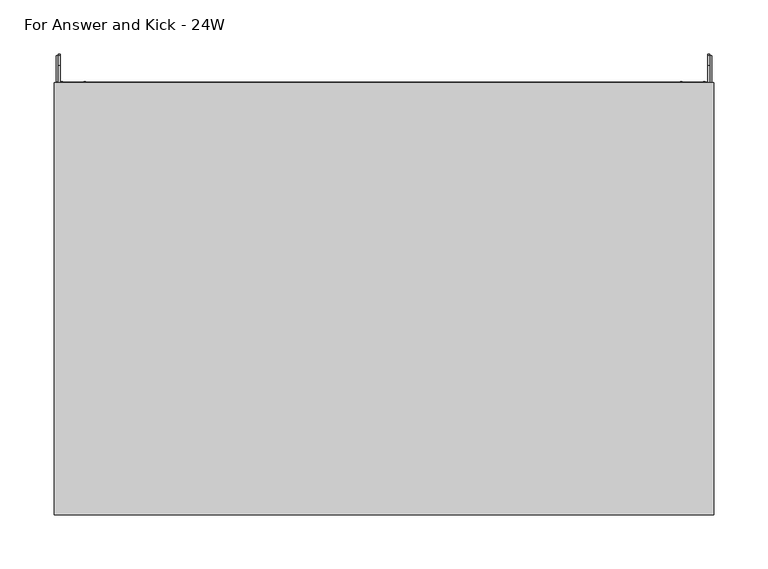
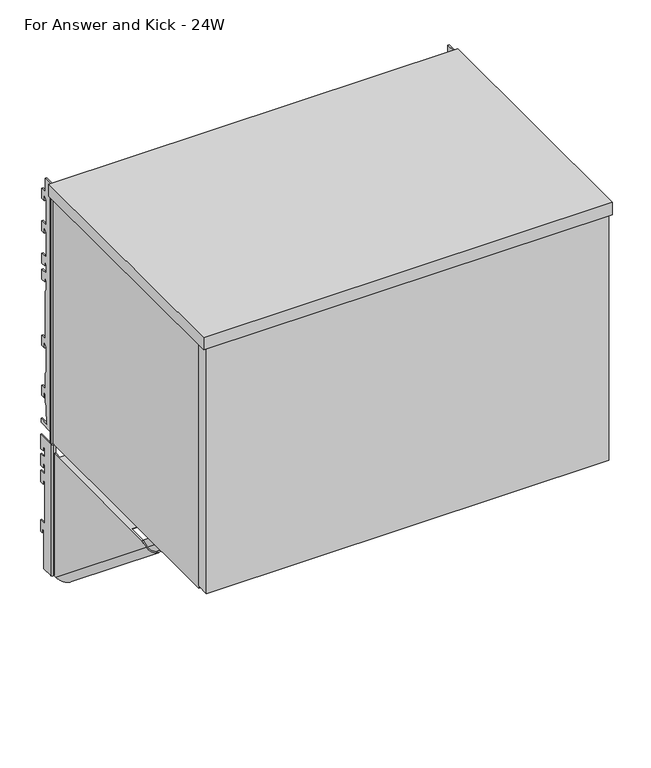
"""IFC4 building model written with IfcOpenShell, lengths in millimetres: furniture geometry, Steelcase - Universal Storage - In the Case Bin - Flat Front : For Answer and Kick - 24W."""

from ifc_helpers import new_model, si_unit, point, frame, frame_2d, origin, place, context, project, spatial, polyline, circle_curve, ellipse_curve, trimmed, segment, composite_curve, outline, extrude, faceted_brep, source, transform, mapped, element, save
from ifc_brep_helpers import plane_surface, cylinder_surface, revolved_surface, advanced_brep


def for_answer_and_kick_24w_fc827875(model_context):
    return source(origin(), model_context, "Body", "SolidModel", [
        advanced_brep(
        [(4.0894, 24.9864881, 1247.9655), (4.0894, 1.1327479, 1247.9655), (4.0894, 1.1203386, 1040.9809), (4.0894, 17.3410881, 1040.9809), (4.0894, 17.3410881, 1101.1280822), (4.0894, 21.4050888, 1101.1280822), (4.0894, 21.4050888, 1094.7781064), (4.0894, 24.9864881, 1094.7781064), (4.0894, 24.9864881, 1113.0407271), (4.0894, 14.7756879, 1113.0407271), (4.0894, 14.7756879, 1179.6141345), (4.0894, 18.8396885, 1179.6141345), (4.0894, 18.8396885, 1173.264086), (4.0894, 24.9864881, 1173.264086), (4.0894, 24.9864881, 1191.5267068), (4.0894, 14.7756879, 1191.5267068), (4.0894, 14.7756879, 1205.7761277), (4.0894, 18.8396885, 1205.7761277), (4.0894, 18.8396885, 1199.4260793), (4.0894, 24.9864881, 1199.4260793), (4.0894, 24.9864881, 1217.6887), (4.0894, 14.7756879, 1217.6887), (4.0894, 14.7756879, 1231.9381209), (4.0894, 18.8396885, 1231.9381209), (4.0894, 18.8396885, 1225.5880725), (4.0894, 24.9864881, 1225.5880725), (2.1844, 24.9864881, 1247.9655), (2.1844, 24.9864881, 1225.5880725), (2.1844, 18.8396885, 1225.5880725), (2.1844, 18.8396885, 1231.9381209), (2.1844, 14.7756879, 1231.9381209), (2.1844, 14.7756879, 1217.6887), (2.1844, 24.9864881, 1217.6887), (2.1844, 24.9864881, 1199.4260793), (2.1844, 18.8396885, 1199.4260793), (2.1844, 18.8396885, 1205.7761277), (2.1844, 14.7756879, 1205.7761277), (2.1844, 14.7756879, 1191.5267068), (2.1844, 24.9864881, 1191.5267068), (2.1844, 24.9864881, 1173.264086), (2.1844, 18.8396885, 1173.264086), (2.1844, 18.8396885, 1179.6141345), (2.1844, 14.7756879, 1179.6141345), (2.1844, 14.7756879, 1113.0407271), (2.1844, 24.9864881, 1113.0407271), (2.1844, 24.9864881, 1094.7781064), (2.1844, 21.4050888, 1094.7781064), (2.1844, 21.4050888, 1101.1280822), (2.1844, 17.3410881, 1101.1280822), (2.1844, 17.3410881, 1040.9809), (2.1844, -0.7757522, 1040.9809), (2.1844, -0.7757522, 1247.9655), (4.4891598, -3.080512, 1247.9655), (8.1026, -3.080512, 1247.9655), (8.1026, -1.7838863, 1247.9655), (7.4942256, -1.175512, 1247.9655), (6.3852506, -1.175512, 1247.9655), (6.3852506, -1.175512, 1040.9809), (7.4942256, -1.175512, 1040.9809), (8.1026, -1.7838863, 1040.9809), (8.1026, -3.080512, 1040.9809), (4.4891598, -3.080512, 1040.9809)],
        [
            (0, 1),
            (1, 2),
            (2, 3),
            (3, 4),
            (4, 5),
            (5, 6),
            (6, 7),
            (7, 8),
            (8, 9),
            (9, 10),
            (10, 11),
            (11, 12),
            (12, 13),
            (13, 14),
            (14, 15),
            (15, 16),
            (16, 17),
            (17, 18),
            (18, 19),
            (19, 20),
            (20, 21),
            (21, 22),
            (22, 23),
            (23, 24),
            (24, 25),
            (25, 0),
            (26, 27),
            (27, 28),
            (28, 29),
            (29, 30),
            (30, 31),
            (31, 32),
            (32, 33),
            (33, 34),
            (34, 35),
            (35, 36),
            (36, 37),
            (37, 38),
            (38, 39),
            (39, 40),
            (40, 41),
            (41, 42),
            (42, 43),
            (43, 44),
            (44, 45),
            (45, 46),
            (46, 47),
            (47, 48),
            (48, 49),
            (49, 50),
            (50, 51),
            (51, 26),
            (0, 26),
            (51, 52, circle_curve(frame((4.4891598, -0.7757522, 1247.9655), z_axis=(0.0, 0.0, 1.0), x_axis=(1.0, 0.0, 0.0)), 2.3047598)),
            (52, 53),
            (53, 54),
            (54, 55, circle_curve(frame((7.4942256, -1.7838863, 1247.9655), z_axis=(0.0, 0.0, 1.0), x_axis=(1.0, 0.0, 0.0)), 0.6083744)),
            (55, 56),
            (56, 1, circle_curve(frame((6.3852506, 1.1203386, 1247.9655), z_axis=(0.0, 0.0, -1.0), x_axis=(1.0, 0.0, 0.0)), 2.2958506)),
            (2, 57, circle_curve(frame((6.3852506, 1.1203386, 1040.9809), z_axis=(0.0, 0.0, 1.0), x_axis=(1.0, 0.0, 0.0)), 2.2958506)),
            (57, 58),
            (58, 59, circle_curve(frame((7.4942256, -1.7838863, 1040.9809), z_axis=(0.0, 0.0, -1.0), x_axis=(1.0, 0.0, 0.0)), 0.6083744)),
            (59, 60),
            (60, 61),
            (61, 50, circle_curve(frame((4.4891598, -0.7757522, 1040.9809), z_axis=(0.0, 0.0, -1.0), x_axis=(1.0, 0.0, 0.0)), 2.3047598)),
            (49, 3),
            (48, 4),
            (47, 5),
            (46, 6),
            (45, 7),
            (44, 8),
            (43, 9),
            (42, 10),
            (41, 11),
            (40, 12),
            (39, 13),
            (38, 14),
            (37, 15),
            (36, 16),
            (35, 17),
            (34, 18),
            (33, 19),
            (32, 20),
            (31, 21),
            (30, 22),
            (29, 23),
            (28, 24),
            (27, 25),
            (61, 52),
            (60, 53),
            (59, 54),
            (58, 55),
            (57, 56),
        ],
        [
            plane_surface(frame((4.0894, 1.241405, 1247.9655), z_axis=(1.0, 0.0, 0.0), x_axis=(0.0, -1.0, 0.0))),
            plane_surface(frame((2.1844, 1.241405, 1247.9655), z_axis=(-1.0, 0.0, 0.0), x_axis=(0.0, 1.0, 0.0))),
            plane_surface(frame((4.0894, 24.9864881, 1247.9655), z_axis=(0.0, 0.0, 1.0), x_axis=(-1.0, 0.0, 0.0))),
            plane_surface(frame((4.0894, 1.1327479, 1040.9809), z_axis=(0.0, 0.0, -1.0), x_axis=(-1.0, 0.0, 0.0))),
            plane_surface(frame((4.0894, 17.3410881, 1040.9809), z_axis=(0.0, 1.0, 0.0), x_axis=(-1.0, 0.0, 0.0))),
            plane_surface(frame((4.0894, 17.3410881, 1101.1280822), z_axis=(0.0, 0.0, -1.0), x_axis=(-1.0, 0.0, 0.0))),
            plane_surface(frame((4.0894, 21.4050888, 1101.1280822), z_axis=(0.0, -1.0, 0.0), x_axis=(-1.0, 0.0, 0.0))),
            plane_surface(frame((4.0894, 21.4050888, 1094.7781064), z_axis=(0.0, 0.0, -1.0), x_axis=(-1.0, 0.0, 0.0))),
            plane_surface(frame((4.0894, 24.9864881, 1094.7781064), z_axis=(0.0, 1.0, 0.0), x_axis=(-1.0, 0.0, 0.0))),
            plane_surface(frame((4.0894, 24.9864881, 1113.0407271), z_axis=(0.0, 0.0, 1.0), x_axis=(-1.0, 0.0, 0.0))),
            plane_surface(frame((4.0894, 14.7756879, 1113.0407271), z_axis=(0.0, 1.0, 0.0), x_axis=(-1.0, 0.0, 0.0))),
            plane_surface(frame((4.0894, 14.7756879, 1179.6141345), z_axis=(0.0, 0.0, -1.0), x_axis=(-1.0, 0.0, 0.0))),
            plane_surface(frame((4.0894, 18.8396885, 1179.6141345), z_axis=(0.0, -1.0, 0.0), x_axis=(-1.0, 0.0, 0.0))),
            plane_surface(frame((4.0894, 18.8396885, 1173.264086), z_axis=(0.0, 0.0, -1.0), x_axis=(-1.0, 0.0, 0.0))),
            plane_surface(frame((4.0894, 24.9864881, 1173.264086), z_axis=(0.0, 1.0, 0.0), x_axis=(-1.0, 0.0, 0.0))),
            plane_surface(frame((4.0894, 24.9864881, 1191.5267068), z_axis=(0.0, 0.0, 1.0), x_axis=(-1.0, 0.0, 0.0))),
            plane_surface(frame((4.0894, 14.7756879, 1191.5267068), z_axis=(0.0, 1.0, 0.0), x_axis=(-1.0, 0.0, 0.0))),
            plane_surface(frame((4.0894, 14.7756879, 1205.7761277), z_axis=(0.0, 0.0, -1.0), x_axis=(-1.0, 0.0, 0.0))),
            plane_surface(frame((4.0894, 18.8396885, 1205.7761277), z_axis=(0.0, -1.0, 0.0), x_axis=(-1.0, 0.0, 0.0))),
            plane_surface(frame((4.0894, 18.8396885, 1199.4260793), z_axis=(0.0, 0.0, -1.0), x_axis=(-1.0, 0.0, 0.0))),
            plane_surface(frame((4.0894, 24.9864881, 1199.4260793), z_axis=(0.0, 1.0, 0.0), x_axis=(-1.0, 0.0, 0.0))),
            plane_surface(frame((4.0894, 24.9864881, 1217.6887), z_axis=(0.0, 0.0, 1.0), x_axis=(-1.0, 0.0, 0.0))),
            plane_surface(frame((4.0894, 14.7756879, 1217.6887), z_axis=(0.0, 1.0, 0.0), x_axis=(-1.0, 0.0, 0.0))),
            plane_surface(frame((4.0894, 14.7756879, 1231.9381209), z_axis=(0.0, 0.0, -1.0), x_axis=(-1.0, 0.0, 0.0))),
            plane_surface(frame((4.0894, 18.8396885, 1231.9381209), z_axis=(0.0, -1.0, 0.0), x_axis=(-1.0, 0.0, 0.0))),
            plane_surface(frame((4.0894, 18.8396885, 1225.5880725), z_axis=(0.0, 0.0, -1.0), x_axis=(-1.0, 0.0, 0.0))),
            plane_surface(frame((4.0894, 24.9864881, 1225.5880725), z_axis=(0.0, 1.0, 0.0), x_axis=(-1.0, 0.0, 0.0))),
            cylinder_surface(frame((4.4891598, -0.7757522, 1040.9809), z_axis=(0.0, 0.0, 1.0), x_axis=(1.0, 0.0, 0.0)), 2.3047598),
            plane_surface(frame((4.4891598, -3.080512, 1247.9655), z_axis=(0.0, -1.0, 0.0), x_axis=(0.0, 0.0, -1.0))),
            plane_surface(frame((8.1026, -3.080512, 1247.9655), z_axis=(1.0, 0.0, 0.0), x_axis=(0.0, 0.0, -1.0))),
            cylinder_surface(frame((7.4942256, -1.7838863, 1040.9809), z_axis=(0.0, 0.0, 1.0), x_axis=(1.0, 0.0, 0.0)), 0.6083744),
            plane_surface(frame((7.4942256, -1.175512, 1247.9655), z_axis=(0.0, 1.0, 0.0), x_axis=(0.0, 0.0, -1.0))),
            revolved_surface(polyline([(8.6811012, 1.1203386, 1040.9809), (8.6811012, 1.1203386, 1247.9655)]), (6.3852506, 1.1203386, 1040.9809), (0.0, 0.0, -1.0)),
        ],
        [
            (0, [[1, 2, 3, 4, 5, 6, 7, 8, 9, 10, 11, 12, 13, 14, 15, 16, 17, 18, 19, 20, 21, 22, 23, 24, 25, 26]]),
            (1, [[27, 28, 29, 30, 31, 32, 33, 34, 35, 36, 37, 38, 39, 40, 41, 42, 43, 44, 45, 46, 47, 48, 49, 50, 51, 52]]),
            (2, [[-1, 53, -52, 54, 55, 56, 57, 58, 59]]),
            (3, [[-3, 60, 61, 62, 63, 64, 65, -50, 66]]),
            (4, [[-4, -66, -49, 67]]),
            (5, [[-5, -67, -48, 68]]),
            (6, [[-6, -68, -47, 69]]),
            (7, [[-7, -69, -46, 70]]),
            (8, [[-8, -70, -45, 71]]),
            (9, [[-9, -71, -44, 72]]),
            (10, [[-10, -72, -43, 73]]),
            (11, [[-11, -73, -42, 74]]),
            (12, [[-12, -74, -41, 75]]),
            (13, [[-13, -75, -40, 76]]),
            (14, [[-14, -76, -39, 77]]),
            (15, [[-15, -77, -38, 78]]),
            (16, [[-16, -78, -37, 79]]),
            (17, [[-17, -79, -36, 80]]),
            (18, [[-18, -80, -35, 81]]),
            (19, [[-19, -81, -34, 82]]),
            (20, [[-20, -82, -33, 83]]),
            (21, [[-21, -83, -32, 84]]),
            (22, [[-22, -84, -31, 85]]),
            (23, [[-23, -85, -30, 86]]),
            (24, [[-24, -86, -29, 87]]),
            (25, [[-25, -87, -28, 88]]),
            (26, [[-26, -88, -27, -53]]),
            (27, [[-54, -51, -65, 89]]),
            (28, [[-55, -89, -64, 90]]),
            (29, [[-56, -90, -63, 91]]),
            (30, [[-57, -91, -62, 92]]),
            (31, [[-58, -92, -61, 93]]),
            (32, [[-59, -93, -60, -2]]),
        ],
    ),
        advanced_brep(
        [(605.5106, 24.9864881, 1247.9655), (605.5106, 24.9864881, 1225.5880725), (605.5106, 18.8396885, 1225.5880725), (605.5106, 18.8396885, 1231.9381209), (605.5106, 14.7756879, 1231.9381209), (605.5106, 14.7756879, 1217.6887), (605.5106, 24.9864881, 1217.6887), (605.5106, 24.9864881, 1199.4260793), (605.5106, 18.8396885, 1199.4260793), (605.5106, 18.8396885, 1205.7761277), (605.5106, 14.7756879, 1205.7761277), (605.5106, 14.7756879, 1191.5267068), (605.5106, 24.9864881, 1191.5267068), (605.5106, 24.9864881, 1173.264086), (605.5106, 18.8396885, 1173.264086), (605.5106, 18.8396885, 1179.6141345), (605.5106, 14.7756879, 1179.6141345), (605.5106, 14.7756879, 1113.0407271), (605.5106, 24.9864881, 1113.0407271), (605.5106, 24.9864881, 1094.7781064), (605.5106, 21.4050888, 1094.7781064), (605.5106, 21.4050888, 1101.1280822), (605.5106, 17.3410881, 1101.1280822), (605.5106, 17.3410881, 1040.9809), (605.5106, 1.1327479, 1040.9809), (605.5106, 1.1203386, 1247.9655), (607.4156, -0.7757522, 1247.9655), (607.4156, -0.7757522, 1040.9809), (607.4156, 17.3410881, 1040.9809), (607.4156, 17.3410881, 1101.1280822), (607.4156, 21.4050888, 1101.1280822), (607.4156, 21.4050888, 1094.7781064), (607.4156, 24.9864881, 1094.7781064), (607.4156, 24.9864881, 1113.0407271), (607.4156, 14.7756879, 1113.0407271), (607.4156, 14.7756879, 1179.6141345), (607.4156, 18.8396885, 1179.6141345), (607.4156, 18.8396885, 1173.264086), (607.4156, 24.9864881, 1173.264086), (607.4156, 24.9864881, 1191.5267068), (607.4156, 14.7756879, 1191.5267068), (607.4156, 14.7756879, 1205.7761277), (607.4156, 18.8396885, 1205.7761277), (607.4156, 18.8396885, 1199.4260793), (607.4156, 24.9864881, 1199.4260793), (607.4156, 24.9864881, 1217.6887), (607.4156, 14.7756879, 1217.6887), (607.4156, 14.7756879, 1231.9381209), (607.4156, 18.8396885, 1231.9381209), (607.4156, 18.8396885, 1225.5880725), (607.4156, 24.9864881, 1225.5880725), (607.4156, 24.9864881, 1247.9655), (605.1108402, -3.080512, 1040.9809), (601.7006, -3.080512, 1040.9809), (601.7006, -1.7838863, 1040.9809), (602.3089744, -1.175512, 1040.9809), (603.2147494, -1.175512, 1040.9809), (603.2147494, -1.175512, 1247.9655), (602.3089744, -1.175512, 1247.9655), (601.7006, -1.7838863, 1247.9655), (601.7006, -3.080512, 1247.9655), (605.1108402, -3.080512, 1247.9655)],
        [
            (0, 1),
            (1, 2),
            (2, 3),
            (3, 4),
            (4, 5),
            (5, 6),
            (6, 7),
            (7, 8),
            (8, 9),
            (9, 10),
            (10, 11),
            (11, 12),
            (12, 13),
            (13, 14),
            (14, 15),
            (15, 16),
            (16, 17),
            (17, 18),
            (18, 19),
            (19, 20),
            (20, 21),
            (21, 22),
            (22, 23),
            (23, 24),
            (24, 25),
            (25, 0),
            (26, 27),
            (27, 28),
            (28, 29),
            (29, 30),
            (30, 31),
            (31, 32),
            (32, 33),
            (33, 34),
            (34, 35),
            (35, 36),
            (36, 37),
            (37, 38),
            (38, 39),
            (39, 40),
            (40, 41),
            (41, 42),
            (42, 43),
            (43, 44),
            (44, 45),
            (45, 46),
            (46, 47),
            (47, 48),
            (48, 49),
            (49, 50),
            (50, 51),
            (51, 26),
            (0, 51),
            (50, 1),
            (49, 2),
            (48, 3),
            (47, 4),
            (46, 5),
            (45, 6),
            (44, 7),
            (43, 8),
            (42, 9),
            (41, 10),
            (40, 11),
            (39, 12),
            (38, 13),
            (37, 14),
            (36, 15),
            (35, 16),
            (34, 17),
            (33, 18),
            (32, 19),
            (31, 20),
            (30, 21),
            (29, 22),
            (28, 23),
            (27, 52, circle_curve(frame((605.1108402, -0.7757522, 1040.9809), z_axis=(0.0, 0.0, -1.0), x_axis=(0.0, 1.0, 0.0)), 2.3047598)),
            (52, 53),
            (53, 54),
            (54, 55, circle_curve(frame((602.3089744, -1.7838863, 1040.9809), z_axis=(0.0, 0.0, -1.0), x_axis=(0.0, 1.0, 0.0)), 0.6083744)),
            (55, 56),
            (56, 24, circle_curve(frame((603.2147494, 1.1203386, 1040.9809), z_axis=(0.0, 0.0, 1.0), x_axis=(0.0, 1.0, 0.0)), 2.2958506)),
            (25, 57, circle_curve(frame((603.2147494, 1.1203386, 1247.9655), z_axis=(0.0, 0.0, -1.0), x_axis=(0.0, 1.0, 0.0)), 2.2958506)),
            (57, 58),
            (58, 59, circle_curve(frame((602.3089744, -1.7838863, 1247.9655), z_axis=(0.0, 0.0, 1.0), x_axis=(0.0, 1.0, 0.0)), 0.6083744)),
            (59, 60),
            (60, 61),
            (61, 26, circle_curve(frame((605.1108402, -0.7757522, 1247.9655), z_axis=(0.0, 0.0, 1.0), x_axis=(0.0, 1.0, 0.0)), 2.3047598)),
            (56, 57),
            (55, 58),
            (54, 59),
            (53, 60),
            (52, 61),
        ],
        [
            plane_surface(frame((605.5106, 24.9864881, 1247.9655), z_axis=(-1.0, 0.0, 0.0), x_axis=(0.0, 0.0, -1.0))),
            plane_surface(frame((607.4156, 24.9864881, 1247.9655), z_axis=(1.0, 0.0, 0.0), x_axis=(0.0, 0.0, 1.0))),
            plane_surface(frame((605.5106, 24.9864881, 1247.9655), z_axis=(0.0, 1.0, 0.0), x_axis=(1.0, 0.0, 0.0))),
            plane_surface(frame((605.5106, 24.9864881, 1225.5880725), z_axis=(0.0, 0.0, -1.0), x_axis=(1.0, 0.0, 0.0))),
            plane_surface(frame((605.5106, 18.8396885, 1225.5880725), z_axis=(0.0, -1.0, 0.0), x_axis=(1.0, 0.0, 0.0))),
            plane_surface(frame((605.5106, 18.8396885, 1231.9381209), z_axis=(0.0, 0.0, -1.0), x_axis=(1.0, 0.0, 0.0))),
            plane_surface(frame((605.5106, 14.7756879, 1231.9381209), z_axis=(0.0, 1.0, 0.0), x_axis=(1.0, 0.0, 0.0))),
            plane_surface(frame((605.5106, 14.7756879, 1217.6887), z_axis=(0.0, 0.0, 1.0), x_axis=(1.0, 0.0, 0.0))),
            plane_surface(frame((605.5106, 24.9864881, 1217.6887), z_axis=(0.0, 1.0, 0.0), x_axis=(1.0, 0.0, 0.0))),
            plane_surface(frame((605.5106, 24.9864881, 1199.4260793), z_axis=(0.0, 0.0, -1.0), x_axis=(1.0, 0.0, 0.0))),
            plane_surface(frame((605.5106, 18.8396885, 1199.4260793), z_axis=(0.0, -1.0, 0.0), x_axis=(1.0, 0.0, 0.0))),
            plane_surface(frame((605.5106, 18.8396885, 1205.7761277), z_axis=(0.0, 0.0, -1.0), x_axis=(1.0, 0.0, 0.0))),
            plane_surface(frame((605.5106, 14.7756879, 1205.7761277), z_axis=(0.0, 1.0, 0.0), x_axis=(1.0, 0.0, 0.0))),
            plane_surface(frame((605.5106, 14.7756879, 1191.5267068), z_axis=(0.0, 0.0, 1.0), x_axis=(1.0, 0.0, 0.0))),
            plane_surface(frame((605.5106, 24.9864881, 1191.5267068), z_axis=(0.0, 1.0, 0.0), x_axis=(1.0, 0.0, 0.0))),
            plane_surface(frame((605.5106, 24.9864881, 1173.264086), z_axis=(0.0, 0.0, -1.0), x_axis=(1.0, 0.0, 0.0))),
            plane_surface(frame((605.5106, 18.8396885, 1173.264086), z_axis=(0.0, -1.0, 0.0), x_axis=(1.0, 0.0, 0.0))),
            plane_surface(frame((605.5106, 18.8396885, 1179.6141345), z_axis=(0.0, 0.0, -1.0), x_axis=(1.0, 0.0, 0.0))),
            plane_surface(frame((605.5106, 14.7756879, 1179.6141345), z_axis=(0.0, 1.0, 0.0), x_axis=(1.0, 0.0, 0.0))),
            plane_surface(frame((605.5106, 14.7756879, 1113.0407271), z_axis=(0.0, 0.0, 1.0), x_axis=(1.0, 0.0, 0.0))),
            plane_surface(frame((605.5106, 24.9864881, 1113.0407271), z_axis=(0.0, 1.0, 0.0), x_axis=(1.0, 0.0, 0.0))),
            plane_surface(frame((605.5106, 24.9864881, 1094.7781064), z_axis=(0.0, 0.0, -1.0), x_axis=(1.0, 0.0, 0.0))),
            plane_surface(frame((605.5106, 21.4050888, 1094.7781064), z_axis=(0.0, -1.0, 0.0), x_axis=(1.0, 0.0, 0.0))),
            plane_surface(frame((605.5106, 21.4050888, 1101.1280822), z_axis=(0.0, 0.0, -1.0), x_axis=(1.0, 0.0, 0.0))),
            plane_surface(frame((605.5106, 17.3410881, 1101.1280822), z_axis=(0.0, 1.0, 0.0), x_axis=(1.0, 0.0, 0.0))),
            plane_surface(frame((605.5106, 17.3410881, 1040.9809), z_axis=(0.0, 0.0, -1.0), x_axis=(1.0, 0.0, 0.0))),
            plane_surface(frame((605.5106, 1.1327479, 1247.9655), z_axis=(0.0, 0.0, 1.0), x_axis=(1.0, 0.0, 0.0))),
            revolved_surface(polyline([(603.2147494, 3.4161892, 1040.9809), (603.2147494, 3.4161892, 1247.9655)]), (603.2147494, 1.1203386, 1040.9809), (0.0, 0.0, -1.0)),
            plane_surface(frame((603.2147494, -1.175512, 1247.9655), z_axis=(0.0, 1.0, 0.0), x_axis=(0.0, 0.0, -1.0))),
            cylinder_surface(frame((602.3089744, -1.7838863, 1040.9809), z_axis=(0.0, 0.0, 1.0), x_axis=(0.0, 1.0, 0.0)), 0.6083744),
            plane_surface(frame((601.7006, -1.7838863, 1247.9655), z_axis=(-1.0, 0.0, 0.0), x_axis=(0.0, 0.0, -1.0))),
            plane_surface(frame((601.7006, -3.080512, 1247.9655), z_axis=(1.0548856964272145e-11, -1.0, 0.0), x_axis=(0.0, 0.0, -1.0))),
            cylinder_surface(frame((605.1108402, -0.7757522, 1040.9809), z_axis=(0.0, 0.0, 1.0), x_axis=(0.0, 1.0, 0.0)), 2.3047598),
        ],
        [
            (0, [[1, 2, 3, 4, 5, 6, 7, 8, 9, 10, 11, 12, 13, 14, 15, 16, 17, 18, 19, 20, 21, 22, 23, 24, 25, 26]]),
            (1, [[27, 28, 29, 30, 31, 32, 33, 34, 35, 36, 37, 38, 39, 40, 41, 42, 43, 44, 45, 46, 47, 48, 49, 50, 51, 52]]),
            (2, [[-1, 53, -51, 54]]),
            (3, [[-2, -54, -50, 55]]),
            (4, [[-3, -55, -49, 56]]),
            (5, [[-4, -56, -48, 57]]),
            (6, [[-5, -57, -47, 58]]),
            (7, [[-6, -58, -46, 59]]),
            (8, [[-7, -59, -45, 60]]),
            (9, [[-8, -60, -44, 61]]),
            (10, [[-9, -61, -43, 62]]),
            (11, [[-10, -62, -42, 63]]),
            (12, [[-11, -63, -41, 64]]),
            (13, [[-12, -64, -40, 65]]),
            (14, [[-13, -65, -39, 66]]),
            (15, [[-14, -66, -38, 67]]),
            (16, [[-15, -67, -37, 68]]),
            (17, [[-16, -68, -36, 69]]),
            (18, [[-17, -69, -35, 70]]),
            (19, [[-18, -70, -34, 71]]),
            (20, [[-19, -71, -33, 72]]),
            (21, [[-20, -72, -32, 73]]),
            (22, [[-21, -73, -31, 74]]),
            (23, [[-22, -74, -30, 75]]),
            (24, [[-23, -75, -29, 76]]),
            (25, [[-24, -76, -28, 77, 78, 79, 80, 81, 82]]),
            (26, [[-26, 83, 84, 85, 86, 87, 88, -52, -53]]),
            (27, [[-83, -25, -82, 89]]),
            (28, [[-84, -89, -81, 90]]),
            (29, [[-85, -90, -80, 91]]),
            (30, [[-86, -91, -79, 92]]),
            (31, [[-87, -92, -78, 93]]),
            (32, [[-88, -93, -77, -27]]),
        ],
    ),
        advanced_brep(
        [(580.5424, -230.0833372, 1233.8431), (580.5424, 1.1327479, 1046.6079738), (578.4342, 1.1327479, 1046.6079738), (578.4342, -230.0833372, 1233.8431), (578.4342, 1.1327479, 1040.9809), (578.4342, -7.7654502, 1040.9809), (578.4342, -240.6555763, 1229.5716381), (601.7006, -7.7654502, 1040.9809), (601.7006, -240.6555763, 1229.5716381), (601.7006, 1.1327479, 1040.9809), (601.7006, 1.1327479, 1046.6079738), (601.7006, -3.080512, 1050.019805), (601.7006, -3.080512, 1233.8431), (601.7006, -230.0833372, 1233.8431), (599.5924009, 1.1327479, 1046.6079738), (599.5924009, -3.080512, 1050.019805), (599.5924009, -7.7654502, 1040.9809), (599.5924009, -240.6555763, 1229.5716381), (599.5924009, -230.0833372, 1233.8431), (599.5924009, -200.311512, 1233.8431), (599.5924009, -200.311512, 1233.0049163), (599.5924009, -14.0787123, 1233.0049163), (599.5924009, -14.0787123, 1233.8431), (599.5924009, -3.080512, 1233.8431), (599.5924009, 1.1327479, 1040.9809), (580.5424, -7.7654502, 1040.9809), (580.5424, -240.6555763, 1229.5716381), (580.5424, 1.1327479, 1040.9809), (570.6617978, -200.311512, 1233.8431), (570.6617978, -200.311512, 1252.2581016), (569.8236, -200.311512, 1252.2581016), (569.8236, -200.311512, 1233.0049163), (569.8236, -82.5825138, 1252.2581016), (570.6617978, -82.5825138, 1252.2581016), (570.6617978, -82.5825138, 1233.8431), (569.8236, -82.5825138, 1233.8431), (569.8236, -14.0787123, 1233.8431), (569.8236, -14.0787123, 1233.0049163)],
        [
            (0, 1),
            (1, 2),
            (2, 3),
            (3, 0),
            (2, 4),
            (4, 5),
            (5, 6),
            (6, 3),
            (5, 7, ellipse_curve(frame((590.0674, -7.7654502, 1040.9809), z_axis=(0.0, 0.0, 1.0), x_axis=(0.0, -1.0, 0.0)), 18.4853359, 11.6332)),
            (7, 8),
            (8, 6, ellipse_curve(frame((590.0674, -240.6555763, 1229.5716381), z_axis=(0.0, 0.374606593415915, -0.9271838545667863), x_axis=(0.0, -0.9271838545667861, -0.3746065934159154)), 13.3008659, 11.6332)),
            (7, 9),
            (9, 10),
            (10, 11),
            (11, 12),
            (12, 13),
            (13, 8),
            (10, 14),
            (14, 15),
            (15, 11),
            (16, 17),
            (17, 18),
            (18, 19),
            (19, 20),
            (20, 21),
            (21, 22),
            (22, 23),
            (23, 15),
            (14, 24),
            (24, 16),
            (16, 25, ellipse_curve(frame((590.0674005, -7.7654502, 1040.9809), z_axis=(0.0, 0.0, -1.0), x_axis=(0.0, 1.0, 0.0)), 15.135374, 9.5250005)),
            (25, 26),
            (26, 17, ellipse_curve(frame((590.0674005, -240.6555763, 1229.5716381), z_axis=(0.0, -0.374606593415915, 0.9271838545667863), x_axis=(0.0, 0.9271838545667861, 0.3746065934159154)), 10.8904475, 9.5250005)),
            (0, 26),
            (25, 27),
            (27, 1),
            (13, 18),
            (24, 9),
            (4, 27),
            (28, 29),
            (29, 30),
            (30, 31),
            (31, 20),
            (19, 28),
            (32, 33),
            (33, 34),
            (34, 35),
            (35, 32),
            (35, 36),
            (36, 37),
            (37, 31),
            (30, 32),
            (28, 34),
            (33, 29),
            (36, 22),
            (21, 37),
            (12, 23),
        ],
        [
            plane_surface(frame((580.5424, -241.2702093, 1242.902052), z_axis=(0.0, 0.6293204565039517, 0.7771459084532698), x_axis=(0.0, 0.7771459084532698, -0.6293204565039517))),
            plane_surface(frame((578.4342, -241.2702093, 1242.902052), z_axis=(-1.0000000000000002, 0.0, 0.0), x_axis=(0.0, 0.7771459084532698, -0.6293204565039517))),
            cylinder_surface(frame((590.0674, 5.728998, 1030.0533094), z_axis=(0.0, -0.7771459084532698, 0.6293204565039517), x_axis=(0.0, 0.6293204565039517, 0.7771459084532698)), 11.6332),
            plane_surface(frame((601.7006, -247.5463438, 1235.1516726), z_axis=(1.0000000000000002, 0.0, 0.0), x_axis=(0.0, 0.7771459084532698, -0.6293204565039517))),
            plane_surface(frame((601.7006, -241.2702093, 1242.902052), z_axis=(0.0, 0.6293204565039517, 0.7771459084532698), x_axis=(0.0, 0.7771459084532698, -0.6293204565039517))),
            plane_surface(frame((599.5924009, -241.2702093, 1242.902052), z_axis=(-1.0000000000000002, 0.0, 0.0), x_axis=(0.0, 0.7771459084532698, -0.6293204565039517))),
            revolved_surface(polyline([(590.0674005, 7.3699238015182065, 1040.980900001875), (590.0674005, -238.76446812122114, 1240.2966349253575)]), (590.0674005, 5.728998, 1030.0533094), (0.0, 0.7771459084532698, -0.6293204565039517)),
            plane_surface(frame((580.5424, -247.5463438, 1235.1516726), z_axis=(1.0000000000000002, 0.0, 0.0), x_axis=(0.0, 0.7771459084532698, -0.6293204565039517))),
            plane_surface(frame((609.6, -257.2236519, 1222.8777011), z_axis=(0.0, -0.374606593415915, 0.9271838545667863), x_axis=(-1.0, 0.0, 0.0))),
            plane_surface(frame((609.6, 1.1327479, 1040.9809), z_axis=(0.0, 0.0, -1.0), x_axis=(-1.0, 0.0, 0.0))),
            plane_surface(frame((609.6, 1.1327479, 1053.6809), z_axis=(0.0, 1.0, 0.0), x_axis=(-1.0, 0.0, 0.0))),
            plane_surface(frame((569.8236, -200.311512, 1252.2581016), z_axis=(0.0, -1.0, 0.0), x_axis=(0.0, 0.0, -1.0))),
            plane_surface(frame((569.8236, -82.5825138, 1252.2581016), z_axis=(0.0, 1.0, 0.0), x_axis=(0.0, 0.0, 1.0))),
            plane_surface(frame((569.8236, -200.311512, 1252.2581016), z_axis=(-1.0, 0.0, 0.0), x_axis=(0.0, 1.0, 0.0))),
            plane_surface(frame((570.6617978, -200.311512, 1233.8431), z_axis=(1.0, 0.0, 0.0), x_axis=(0.0, 1.0, 0.0))),
            plane_surface(frame((570.6617978, -200.311512, 1252.2581016), z_axis=(0.0, 0.0, 1.0), x_axis=(0.0, 1.0, 0.0))),
            plane_surface(frame((569.8236, -14.0787123, 1233.8431), z_axis=(0.0, 1.0, 0.0), x_axis=(0.0, 0.0, 1.0))),
            plane_surface(frame((569.8236, -200.311512, 1233.0049163), z_axis=(0.0, 0.0, -1.0), x_axis=(0.0, 1.0, 0.0))),
            plane_surface(frame((601.7006, -200.311512, 1233.8431), z_axis=(0.0, 0.0, 1.0), x_axis=(0.0, 1.0, 0.0))),
            plane_surface(frame((601.7006, -3.080512, 1050.019805), z_axis=(0.0, 1.0, 0.0), x_axis=(-1.0, 0.0, 0.0))),
        ],
        [
            (0, [[1, 2, 3, 4]]),
            (1, [[-3, 5, 6, 7, 8]]),
            (2, [[-7, 9, 10, 11]]),
            (3, [[-10, 12, 13, 14, 15, 16, 17]]),
            (4, [[18, 19, 20, -14]]),
            (5, [[21, 22, 23, 24, 25, 26, 27, 28, -19, 29, 30]]),
            (6, [[-21, 31, 32, 33]]),
            (7, [[-1, 34, -32, 35, 36]]),
            (8, [[-4, -8, -11, -17, 37, -22, -33, -34]]),
            (9, [[38, -12, -9, -6, 39, -35, -31, -30]]),
            (10, [[-38, -29, -18, -13]]),
            (10, [[-39, -5, -2, -36]]),
            (11, [[40, 41, 42, 43, -24, 44]]),
            (12, [[45, 46, 47, 48]]),
            (13, [[-48, 49, 50, 51, -42, 52]]),
            (14, [[-40, 53, -46, 54]]),
            (15, [[-41, -54, -45, -52]]),
            (16, [[-50, 55, -26, 56]]),
            (17, [[-51, -56, -25, -43]]),
            (18, [[57, -27, -55, -49, -47, -53, -44, -23, -37, -16]]),
            (19, [[-15, -20, -28, -57]]),
        ],
    ),
        advanced_brep(
        [(8.1026, -3.080512, 1050.019805), (8.1026, -3.080512, 1233.8431), (8.1026, -14.0787123, 1233.8431), (8.1026, -14.0787123, 1233.0049163), (8.1026, -200.311512, 1233.0049163), (8.1026, -200.311512, 1233.8431), (8.1026, -230.0833372, 1233.8431), (8.1026, -240.6555763, 1229.5716381), (8.1026, -7.7654502, 1040.9809), (8.1026, 1.1327479, 1040.9809), (8.1026, 1.1327479, 1046.6079738), (5.9944, -3.080512, 1233.8431), (5.9944, -3.080512, 1050.019805), (5.9944, 1.1327479, 1046.6079738), (5.9944, 1.1327479, 1040.9809), (5.9944, -7.7654502, 1040.9809), (5.9944, -240.6555763, 1229.5716381), (5.9944, -230.0833372, 1233.8431), (39.5732022, -200.311512, 1233.8431), (39.5732022, -82.5825138, 1233.8431), (40.4114, -82.5825138, 1233.8431), (40.4114, -14.0787123, 1233.8431), (29.2608, -7.7654502, 1040.9809), (29.2608, -240.6555763, 1229.5716381), (29.2608, 1.1327479, 1040.9809), (29.2608, 1.1327479, 1046.6079738), (29.2608, -230.0833372, 1233.8431), (27.1526009, 1.1327479, 1046.6079738), (27.1526009, -230.0833372, 1233.8431), (27.1526009, 1.1327479, 1040.9809), (27.1526009, -7.7654502, 1040.9809), (27.1526009, -240.6555763, 1229.5716381), (40.4114, -200.311512, 1233.0049163), (40.4114, -200.311512, 1252.2581016), (39.5732022, -200.311512, 1252.2581016), (40.4114, -14.0787123, 1233.0049163), (40.4114, -82.5825138, 1252.2581016), (39.5732022, -82.5825138, 1252.2581016)],
        [
            (0, 1),
            (1, 2),
            (2, 3),
            (3, 4),
            (4, 5),
            (5, 6),
            (6, 7),
            (7, 8),
            (8, 9),
            (9, 10),
            (10, 0),
            (11, 12),
            (12, 13),
            (13, 14),
            (14, 15),
            (15, 16),
            (16, 17),
            (17, 11),
            (17, 6),
            (5, 18),
            (18, 19),
            (19, 20),
            (20, 21),
            (21, 2),
            (1, 11),
            (0, 12),
            (10, 13),
            (15, 22, ellipse_curve(frame((17.6276, -7.7654502, 1040.9809), z_axis=(0.0, 0.0, 1.0), x_axis=(0.0, -1.0, 0.0)), 18.4853359, 11.6332)),
            (22, 23),
            (23, 16, ellipse_curve(frame((17.6276, -240.6555763, 1229.5716381), z_axis=(0.0, 0.374606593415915, -0.9271838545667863), x_axis=(0.0, -0.9271838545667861, -0.3746065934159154)), 13.3008659, 11.6332)),
            (22, 24),
            (24, 25),
            (25, 26),
            (26, 23),
            (25, 27),
            (27, 28),
            (28, 26),
            (27, 29),
            (29, 30),
            (30, 31),
            (31, 28),
            (7, 31, ellipse_curve(frame((17.6276005, -240.6555763, 1229.5716381), z_axis=(0.0, -0.374606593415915, 0.9271838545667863), x_axis=(0.0, 0.9271838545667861, 0.3746065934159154)), 10.8904475, 9.5250005)),
            (30, 8, ellipse_curve(frame((17.6276005, -7.7654502, 1040.9809), z_axis=(0.0, 0.0, -1.0), x_axis=(0.0, 1.0, 0.0)), 15.135374, 9.5250005)),
            (14, 9),
            (29, 24),
            (4, 32),
            (32, 33),
            (33, 34),
            (34, 18),
            (21, 35),
            (35, 3),
            (35, 32),
            (20, 36),
            (36, 33),
            (19, 37),
            (37, 36),
            (37, 34),
        ],
        [
            plane_surface(frame((8.1026, -230.0833372, 1233.8431), z_axis=(1.0, 0.0, 0.0), x_axis=(0.0, -1.0, 0.0))),
            plane_surface(frame((5.9944, -230.0833372, 1233.8431), z_axis=(-1.0, 0.0, 0.0), x_axis=(0.0, 1.0, 0.0))),
            plane_surface(frame((8.1026, -3.080512, 1233.8431), z_axis=(0.0, 0.0, 1.0), x_axis=(-1.0, 0.0, 0.0))),
            plane_surface(frame((8.1026, -3.080512, 1050.019805), z_axis=(0.0, 1.0, 0.0), x_axis=(-1.0, 0.0, 0.0))),
            plane_surface(frame((8.1026, -241.2702093, 1242.902052), z_axis=(0.0, 0.6293204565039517, 0.7771459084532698), x_axis=(0.0, 0.7771459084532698, -0.6293204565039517))),
            cylinder_surface(frame((17.6276, 5.728998, 1030.0533094), z_axis=(0.0, -0.7771459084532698, 0.6293204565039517), x_axis=(1.0, 0.0, 0.0)), 11.6332),
            plane_surface(frame((29.2608, -247.5463438, 1235.1516726), z_axis=(1.0000000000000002, 0.0, 0.0), x_axis=(0.0, 0.7771459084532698, -0.6293204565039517))),
            plane_surface(frame((29.2608, -241.2702093, 1242.902052), z_axis=(0.0, 0.6293204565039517, 0.7771459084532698), x_axis=(0.0, 0.7771459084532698, -0.6293204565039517))),
            plane_surface(frame((27.1526009, -241.2702093, 1242.902052), z_axis=(-1.0000000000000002, 0.0, 0.0), x_axis=(0.0, 0.7771459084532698, -0.6293204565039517))),
            revolved_surface(polyline([(27.152601, 1.375646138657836, 1033.5785848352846), (27.152601, -244.75874578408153, 1232.8943197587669)]), (17.6276005, 5.728998, 1030.0533094), (0.0, 0.7771459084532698, -0.6293204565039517)),
            plane_surface(frame((609.6, -257.2236519, 1222.8777011), z_axis=(0.0, -0.374606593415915, 0.9271838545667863), x_axis=(-1.0, 0.0, 0.0))),
            plane_surface(frame((609.6, 1.1327479, 1040.9809), z_axis=(0.0, 0.0, -1.0), x_axis=(-1.0, 0.0, 0.0))),
            plane_surface(frame((609.6, 1.1327479, 1053.6809), z_axis=(0.0, 1.0, 0.0), x_axis=(-1.0, 0.0, 0.0))),
            plane_surface(frame((10.5986151, -200.311512, 1233.8431), z_axis=(0.0, -1.0, 0.0), x_axis=(-1.0, 0.0, 0.0))),
            plane_surface(frame((10.5986151, -14.0787123, 1233.8431), z_axis=(0.0, 1.0, 0.0), x_axis=(1.0, 0.0, 0.0))),
            plane_surface(frame((8.1026, -200.311512, 1233.0049163), z_axis=(0.0, 0.0, -1.0), x_axis=(0.0, 1.0, 0.0))),
            plane_surface(frame((40.4114, -200.311512, 1233.0049163), z_axis=(1.0, 0.0, 0.0), x_axis=(0.0, 1.0, 0.0))),
            plane_surface(frame((38.1509305, -82.5825138, 1252.2581016), z_axis=(0.0, 1.0, 0.0), x_axis=(1.0, 0.0, 0.0))),
            plane_surface(frame((40.4114, -200.311512, 1252.2581016), z_axis=(0.0, 0.0, 1.0), x_axis=(0.0, 1.0, 0.0))),
            plane_surface(frame((39.5732022, -200.311512, 1252.2581016), z_axis=(-1.0, 0.0, 0.0), x_axis=(0.0, 1.0, 0.0))),
        ],
        [
            (0, [[1, 2, 3, 4, 5, 6, 7, 8, 9, 10, 11]]),
            (1, [[12, 13, 14, 15, 16, 17, 18]]),
            (2, [[-18, 19, -6, 20, 21, 22, 23, 24, -2, 25]]),
            (3, [[-1, 26, -12, -25]]),
            (4, [[-26, -11, 27, -13]]),
            (5, [[-16, 28, 29, 30]]),
            (6, [[-29, 31, 32, 33, 34]]),
            (7, [[-33, 35, 36, 37]]),
            (8, [[-36, 38, 39, 40, 41]]),
            (9, [[-8, 42, -40, 43]]),
            (10, [[-7, -19, -17, -30, -34, -37, -41, -42]]),
            (11, [[44, -9, -43, -39, 45, -31, -28, -15]]),
            (12, [[-44, -14, -27, -10]]),
            (12, [[-45, -38, -35, -32]]),
            (13, [[46, 47, 48, 49, -20, -5]]),
            (14, [[50, 51, -3, -24]]),
            (15, [[-46, -4, -51, 52]]),
            (16, [[-47, -52, -50, -23, 53, 54]]),
            (17, [[-53, -22, 55, 56]]),
            (18, [[-48, -54, -56, 57]]),
            (19, [[-49, -57, -55, -21]]),
        ],
    ),
        faceted_brep([(590.6516023, -9.7789998, 1640.3955), (590.6516023, -9.7789998, 1652.2572326), (590.6516023, -10.6172003, 1652.2572326), (590.6516023, -10.6172003, 1639.557281), (590.6516023, -0.8382, 1639.557281), (590.6516023, -0.8382266, 1640.3955), (17.0434001, -9.7789998, 1640.3955), (17.0434001, -0.8382, 1640.3955), (17.0434001, -0.8382011, 1639.557281), (17.0434001, -10.6172003, 1639.557281), (17.0434001, -10.6172003, 1652.2572326), (17.0434001, -9.7789998, 1652.2572326), (593.2837557, -30.9238769, 1640.3955), (594.1187599, -30.850824, 1640.3955), (591.4930117, -0.8382, 1640.3955), (605.5106, -0.8382, 1640.3955), (605.5106, 0.1784978, 1640.3955), (2.1844, 0.1784978, 1640.3955), (2.1844, -0.8382, 1640.3955), (16.2019988, -0.8382, 1640.3955), (13.5762335, -30.850824, 1640.3955), (14.4176356, -30.850824, 1640.3955), (605.5106, 0.1784978, 1247.9655), (605.5106, -0.8382, 1247.9655), (591.4930117, -0.8382, 1247.9655), (594.1187599, -30.850824, 1247.9655), (593.2837557, -30.9238769, 1247.9655), (590.6516, -0.8382, 1247.9655), (17.0434002, -0.8382, 1247.9655), (14.4176356, -30.850824, 1247.9655), (13.5762335, -30.850824, 1247.9655), (16.2019988, -0.8382, 1247.9655), (2.1844, -0.8382, 1247.9655), (2.1844, 0.1784978, 1247.9655)], [[[0, 1, 2, 3, 4, 5]], [[6, 7, 8, 9, 10, 11]], [[1, 0, 6, 11]], [[2, 1, 11, 10]], [[3, 2, 10, 9]], [[4, 3, 9, 8]], [[0, 5, 12, 13, 14, 15, 16, 17, 18, 19, 20, 21, 7, 6]], [[22, 23, 24, 25, 26, 27, 28, 29, 30, 31, 32, 33]], [[17, 16, 22, 33]], [[18, 17, 33, 32]], [[19, 18, 32, 31]], [[20, 19, 31, 30]], [[21, 20, 30, 29]], [[7, 21, 29, 28, 8]], [[28, 27, 4, 8]], [[12, 5, 4, 27, 26]], [[13, 12, 26, 25]], [[14, 13, 25, 24]], [[15, 14, 24, 23]], [[16, 15, 23, 22]]]),
        faceted_brep([(574.1415999, -61.4680004, 1256.4236903), (574.1415999, -61.4680004, 1248.8037), (574.1415999, -60.6298021, 1248.8037), (574.1415999, -60.6298021, 1256.4236903), (33.5534002, -61.4680004, 1256.4236903), (33.5534002, -60.6298021, 1256.4236903), (33.5534002, -60.6298021, 1248.8037), (33.5534002, -61.468, 1248.8037), (17.0434001, -61.4680004, 1248.8037), (17.0434001, -61.4680004, 1247.9655), (590.6516023, -61.4680004, 1247.9655), (590.6516023, -61.4680004, 1248.8037), (590.6516023, -0.8382, 1247.9655), (590.6516023, -0.8382, 1248.8037), (17.0434001, -0.8382, 1248.8037), (17.0434001, -0.8382, 1247.9655)], [[[0, 1, 2, 3]], [[4, 5, 6, 7]], [[1, 0, 4, 7, 8, 9, 10, 11]], [[3, 2, 6, 5]], [[0, 3, 5, 4]], [[11, 10, 12, 13]], [[8, 14, 15, 9]], [[12, 10, 9, 15]], [[13, 12, 15, 14]], [[11, 13, 14, 8, 7, 6, 2, 1]]]),
        extrude(outline(composite_curve([segment(polyline([(-343.4401318, 1291.8437595), (-377.213238, 1291.8437595), (-377.213238, 1639.09375), (-30.850824, 1639.09375), (-30.850824, 1638.0577444), (-372.9486617, 1638.0577444)]), True, "CONTINUOUS"), segment(trimmed(circle_curve(frame_2d((-372.9486617, 1635.1839261)), 2.8738183), [point((-372.9486617, 1638.0577444))], [point((-375.82248, 1635.1839261))], True, "CARTESIAN"), True, "CONTINUOUS"), segment(polyline([(-375.82248, 1635.1839261), (-375.82248, 1292.9867129), (-343.4401318, 1292.9867129), (-343.4401318, 1291.8437595)]), True, "CONTINUOUS")], self_intersect=False)), frame((296.5266311, 0.0, 0.0), z_axis=(1.0, 0.0, 0.0), x_axis=(0.0, 1.0, 0.0)), (0.0, 0.0, 1.0), 16.5467378),
        extrude(outline(polyline([(609.6, -399.4977324), (0.0, -399.4977324), (0.0, 0.0), (609.6, 0.0), (609.6, -399.4977324)])), frame((0.0, 0.0, 1639.490625), z_axis=(0.0, 0.0, 1.0), x_axis=(1.0, 0.0, 0.0)), (0.0, 0.0, 1.0), 19.05),
        extrude(outline(polyline([(4.4448587, -378.8585852), (605.1703, -378.8585852), (605.1703, -399.0261526), (4.4448587, -399.0261526), (4.4448587, -378.8585852)])), frame((0.0, 0.0, 1253.2134107), z_axis=(0.0, 0.0, 1.0), x_axis=(1.0, 0.0, 0.0)), (0.0, 0.0, 1.0), 386.3690475),
        extrude(outline(polyline([(0.0, 1657.096), (15.428165, 1657.096), (15.428165, 1635.9725192), (24.6737648, 1635.9725192), (24.6737648, 1620.2499324), (17.7141651, 1620.2499324), (17.7141651, 1627.4034202), (15.428165, 1627.4034202), (13.3707653, 1623.8398995), (13.3707653, 1584.7332049), (24.4959651, 1584.7332049), (24.4959651, 1569.0106181), (17.7141651, 1569.0106181), (17.7141651, 1576.1734076), (15.428165, 1576.1734076), (13.3707653, 1572.6099624), (13.3707653, 1533.4938907), (24.6737648, 1533.4938907), (24.6737648, 1517.7713038), (17.5768, 1517.7713038), (17.5768, 1524.9340934), (15.4248855, 1524.9340934), (13.3349998, 1521.3219111), (13.3349998, 1508.4166423), (24.6737648, 1508.4166423), (24.6737648, 1492.6940555), (17.5768, 1492.6940555), (17.5768, 1499.856845), (15.4205129, 1499.856845), (13.3933344, 1496.3530466), (13.3933344, 1483.6530466), (15.428165, 1479.2893385), (15.428165, 1403.8551467), (24.6737648, 1403.8551467), (24.6737648, 1388.1325599), (17.7141651, 1388.1325599), (17.7141651, 1395.2982562), (15.428165, 1395.2982562), (13.3306079, 1391.6651808), (13.3306079, 1353.5651808), (15.428165, 1349.9321054), (15.428165, 1325.1000701), (24.6737648, 1325.1000701), (24.6737648, 1309.3774833), (17.7141651, 1309.3774833), (17.7141651, 1316.5328605), (15.428165, 1316.5328605), (15.428165, 1303.5355433), (13.2046809, 1299.684356), (13.2046809, 1282.9679719), (11.2879653, 1282.9679719), (11.2879653, 1271.9303504), (26.4009645, 1271.9303504), (26.4009645, 1265.428), (0.0, 1265.428), (0.0, 1657.096)])), frame((604.0882, 0.0, 0.0), z_axis=(1.0, 0.0, 0.0), x_axis=(0.0, 1.0, 0.0)), (0.0, 0.0, 1.0), 1.905),
        extrude(outline(polyline([(0.0, 1657.096), (15.428165, 1657.096), (15.428165, 1635.9725192), (24.6737648, 1635.9725192), (24.6737648, 1620.2499324), (17.7141651, 1620.2499324), (17.7141651, 1627.4034202), (15.428165, 1627.4034202), (13.3707653, 1623.8398995), (13.3707653, 1584.7332049), (24.4959651, 1584.7332049), (24.4959651, 1569.0106181), (17.7141651, 1569.0106181), (17.7141651, 1576.1734076), (15.428165, 1576.1734076), (13.3707653, 1572.6099624), (13.3707653, 1533.4938907), (24.6737648, 1533.4938907), (24.6737648, 1517.7713038), (17.5768, 1517.7713038), (17.5768, 1524.9340934), (15.4248855, 1524.9340934), (13.3349998, 1521.3219111), (13.3349998, 1508.4166423), (24.6737648, 1508.4166423), (24.6737648, 1492.6940555), (17.5768, 1492.6940555), (17.5768, 1499.856845), (15.4205129, 1499.856845), (13.3933344, 1496.3530466), (13.3933344, 1483.6530466), (15.428165, 1479.2893385), (15.428165, 1403.8551467), (24.6737648, 1403.8551467), (24.6737648, 1388.1325599), (17.7141651, 1388.1325599), (17.7141651, 1395.2982562), (15.428165, 1395.2982562), (13.3306079, 1391.6651808), (13.3306079, 1353.5651808), (15.428165, 1349.9321054), (15.428165, 1325.1000701), (24.6737648, 1325.1000701), (24.6737648, 1309.3774833), (17.7141651, 1309.3774833), (17.7141651, 1316.5328605), (15.428165, 1316.5328605), (15.428165, 1303.5355433), (13.2046809, 1299.684356), (13.2046809, 1282.9679719), (11.2879653, 1282.9679719), (11.2879653, 1271.9303504), (26.4009645, 1271.9303504), (26.4009645, 1265.428), (0.0, 1265.428), (0.0, 1657.096)])), frame((3.6068, 0.0, 0.0), z_axis=(1.0, 0.0, 0.0), x_axis=(0.0, 1.0, 0.0)), (0.0, 0.0, 1.0), 1.905),
        extrude(outline(polyline([(15.875, -377.213238), (5.5118, -377.213238), (5.5118, 0.0), (15.875, 0.0), (15.875, -377.213238)])), frame((0.0, 0.0, 1247.9655), z_axis=(0.0, 0.0, 1.0), x_axis=(1.0, 0.0, 0.0)), (0.0, 0.0, 1.0), 391.2710707),
        extrude(outline(polyline([(608.4568665, -377.213238), (593.725, -377.213238), (593.725, 0.0), (608.4568665, 0.0), (608.4568665, -377.213238)])), frame((0.0, 0.0, 1247.9655), z_axis=(0.0, 0.0, 1.0), x_axis=(1.0, 0.0, 0.0)), (0.0, 0.0, 1.0), 391.2710707),
        extrude(outline(polyline([(-35.4584098, 1372.819257), (-27.0763996, 1372.819257), (-27.0763996, 1360.1191601), (-33.4264117, 1360.1191601), (-33.4264117, 1323.1622589), (-27.0763996, 1323.1622589), (-27.0763996, 1265.428), (-35.4584098, 1265.428), (-35.4584098, 1293.054213), (-46.1263996, 1293.054213), (-46.1263996, 1268.1875622), (-59.9694137, 1268.1875622), (-59.9694137, 1294.8575912), (-332.8542818, 1294.8575912), (-332.8542818, 1268.1875622), (-377.3042823, 1268.1875622), (-377.3042823, 1310.7072052), (-35.4584098, 1310.7072052), (-35.4584098, 1372.819257)])), frame((15.875, 0.0, 0.0), z_axis=(1.0, 0.0, 0.0), x_axis=(0.0, 1.0, 0.0)), (0.0, 0.0, 1.0), 577.85),
    ])


if __name__ == "__main__":
    model = new_model("IFC4")
    model_context = context("Model", 3, world=origin())
    ifc_project = project(units=[si_unit("LENGTHUNIT", "METRE", prefix="MILLI")], contexts=[model_context])
    site = spatial("IfcSite", under=ifc_project)
    building = spatial("IfcBuilding", under=site)
    placement = place(None, origin())
    for_answer_and_kick_24w_shape = for_answer_and_kick_24w_fc827875(model_context)
    element("IfcFurniture", 1, ObjectType="Steelcase - Universal Storage - In the Case Bin - Flat Front : For Answer and Kick - 24W", at=placement, inside=building, context=model_context, shape_type="MappedRepresentation", body=[
        mapped(for_answer_and_kick_24w_shape, transform((0.0, 0.0, 0.0), x_axis=(1.0, 0.0, 0.0), y_axis=(0.0, 1.0, 0.0), z_axis=(0.0, 0.0, 1.0))),
    ])
    save(model, "model.ifc")
